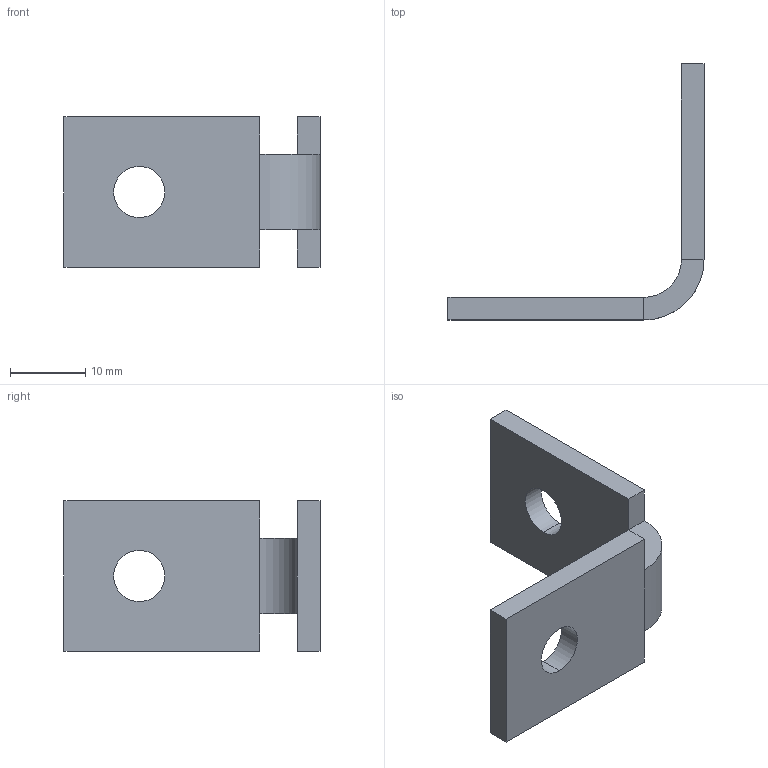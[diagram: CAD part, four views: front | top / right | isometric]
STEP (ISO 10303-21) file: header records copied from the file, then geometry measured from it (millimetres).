
FILE_DESCRIPTION (( 'STEP AP214' ), '1' );
FILE_NAME ('FBRX 20A.step', '2017-04-05T08:03:04', ( '' ), ( '' ), 'SwSTEP 2.0', 'SolidWorks 2015', '' );
FILE_SCHEMA (( 'AUTOMOTIVE_DESIGN' ));
Length unit declared in the file: millimetre
Products named in the file (1): FBRX 20A
Bounding box: 34 x 34 x 20 mm (x, y, z)
Volume: 3208.4 mm3; surface area: 2820.4 mm2
Topology: 1 solids, 1 shells, 22 faces, 52 edges, 32 vertices
Faces by surface type: plane 16, cylinder 6
Entity records: 864 total; most frequent: DIRECTION 110, CARTESIAN_POINT 107, ORIENTED_EDGE 104, EDGE_CURVE 52, LINE 40, VECTOR 40, AXIS2_PLACEMENT_3D 35, VERTEX_POINT 32
